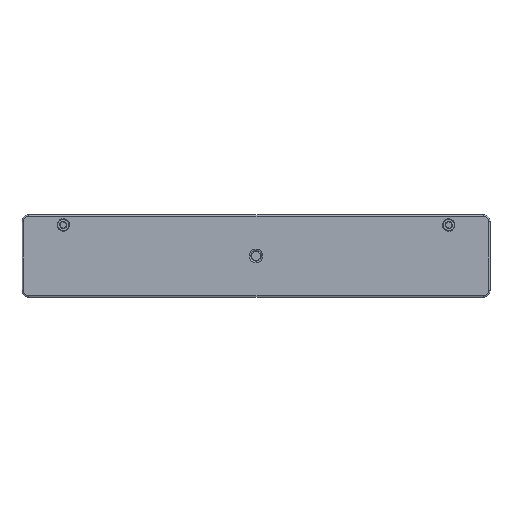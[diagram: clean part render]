
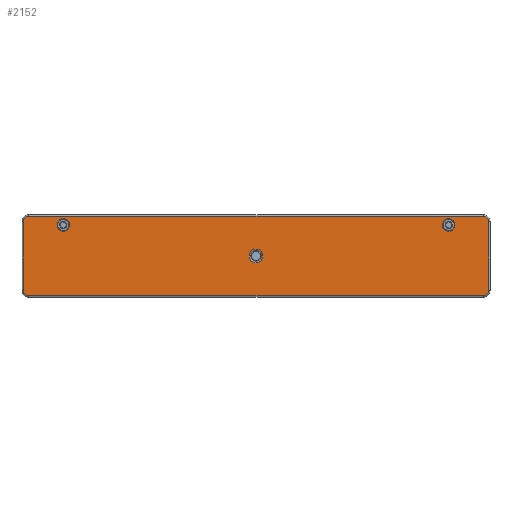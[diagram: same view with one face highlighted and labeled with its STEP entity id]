
A CAD part, top view. The second image highlights one B-rep face of the part: STEP entity #2152.
In plain terms, the highlighted planar face has unit normal (0, 0, 1).
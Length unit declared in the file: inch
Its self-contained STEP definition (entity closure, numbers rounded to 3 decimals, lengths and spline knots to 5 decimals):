
#167 = AXIS2_PLACEMENT_3D ( 'NONE', #5409, #5413, #5414 ) ;
#169 = AXIS2_PLACEMENT_3D ( 'NONE', #5385, #5392, #5393 ) ;
#172 = AXIS2_PLACEMENT_3D ( 'NONE', #5403, #5407, #5408 ) ;
#174 = AXIS2_PLACEMENT_3D ( 'NONE', #5394, #5401, #5402 ) ;
#175 = VECTOR ( 'NONE', #5397, 39.37008 ) ;
#176 = AXIS2_PLACEMENT_3D ( 'NONE', #5415, #5416, #5417 ) ;
#177 = VECTOR ( 'NONE', #5400, 39.37008 ) ;
#179 = VECTOR ( 'NONE', #5406, 39.37008 ) ;
#181 = VECTOR ( 'NONE', #5412, 39.37008 ) ;
#182 = AXIS2_PLACEMENT_3D ( 'NONE', #5418, #5419, #5420 ) ;
#183 = AXIS2_PLACEMENT_3D ( 'NONE', #5421, #5422, #5423 ) ;
#373 = AXIS2_PLACEMENT_3D ( 'NONE', #6392, #6393, #6394 ) ;
#377 = AXIS2_PLACEMENT_3D ( 'NONE', #6404, #6405, #6406 ) ;
#381 = AXIS2_PLACEMENT_3D ( 'NONE', #6416, #6417, #6418 ) ;
#425 = FACE_OUTER_BOUND ( 'NONE', #12539, .T. ) ;
#427 = AXIS2_PLACEMENT_3D ( 'NONE', #6858, #6859, #6860 ) ;
#428 = FACE_BOUND ( 'NONE', #12541, .T. ) ;
#431 = FACE_BOUND ( 'NONE', #12538, .T. ) ;
#433 = FACE_BOUND ( 'NONE', #12537, .T. ) ;
#757 = EDGE_CURVE ( 'NONE', #1020, #1021, #4228, .T. ) ;
#758 = EDGE_CURVE ( 'NONE', #1019, #1020, #5395, .T. ) ;
#759 = EDGE_CURVE ( 'NONE', #1021, #1022, #5398, .T. ) ;
#760 = EDGE_CURVE ( 'NONE', #1022, #1023, #4227, .T. ) ;
#761 = EDGE_CURVE ( 'NONE', #1023, #1024, #5404, .T. ) ;
#762 = EDGE_CURVE ( 'NONE', #1024, #1025, #4229, .T. ) ;
#763 = EDGE_CURVE ( 'NONE', #1025, #1026, #5410, .T. ) ;
#764 = EDGE_CURVE ( 'NONE', #1026, #1019, #4230, .T. ) ;
#765 = EDGE_CURVE ( 'NONE', #984, #994, #4231, .T. ) ;
#766 = EDGE_CURVE ( 'NONE', #996, #916, #4232, .T. ) ;
#767 = EDGE_CURVE ( 'NONE', #991, #981, #4233, .T. ) ;
#916 = VERTEX_POINT ( 'NONE', #5801 ) ;
#981 = VERTEX_POINT ( 'NONE', #5866 ) ;
#984 = VERTEX_POINT ( 'NONE', #5869 ) ;
#991 = VERTEX_POINT ( 'NONE', #5876 ) ;
#994 = VERTEX_POINT ( 'NONE', #5879 ) ;
#996 = VERTEX_POINT ( 'NONE', #5881 ) ;
#1019 = VERTEX_POINT ( 'NONE', #5904 ) ;
#1020 = VERTEX_POINT ( 'NONE', #5905 ) ;
#1021 = VERTEX_POINT ( 'NONE', #5906 ) ;
#1022 = VERTEX_POINT ( 'NONE', #5907 ) ;
#1023 = VERTEX_POINT ( 'NONE', #5908 ) ;
#1024 = VERTEX_POINT ( 'NONE', #5909 ) ;
#1025 = VERTEX_POINT ( 'NONE', #5910 ) ;
#1026 = VERTEX_POINT ( 'NONE', #5911 ) ;
#1403 = ORIENTED_EDGE ( 'NONE', *, *, #758, .T. ) ;
#1404 = ORIENTED_EDGE ( 'NONE', *, *, #759, .T. ) ;
#1405 = ORIENTED_EDGE ( 'NONE', *, *, #757, .T. ) ;
#1406 = ORIENTED_EDGE ( 'NONE', *, *, #760, .T. ) ;
#1407 = ORIENTED_EDGE ( 'NONE', *, *, #761, .T. ) ;
#1408 = ORIENTED_EDGE ( 'NONE', *, *, #762, .T. ) ;
#1409 = ORIENTED_EDGE ( 'NONE', *, *, #763, .T. ) ;
#1410 = ORIENTED_EDGE ( 'NONE', *, *, #764, .T. ) ;
#1412 = ORIENTED_EDGE ( 'NONE', *, *, #765, .T. ) ;
#1413 = ORIENTED_EDGE ( 'NONE', *, *, #2072, .T. ) ;
#1414 = ORIENTED_EDGE ( 'NONE', *, *, #766, .T. ) ;
#1415 = ORIENTED_EDGE ( 'NONE', *, *, #2068, .T. ) ;
#1416 = ORIENTED_EDGE ( 'NONE', *, *, #767, .T. ) ;
#1417 = ORIENTED_EDGE ( 'NONE', *, *, #2064, .T. ) ;
#2064 = EDGE_CURVE ( 'NONE', #981, #991, #4291, .T. ) ;
#2068 = EDGE_CURVE ( 'NONE', #916, #996, #4295, .T. ) ;
#2072 = EDGE_CURVE ( 'NONE', #994, #984, #4299, .T. ) ;
#2152 = ADVANCED_FACE ( 'NONE', ( #425, #428, #431, #433 ), #6857, .F. ) ;
#4227 = CIRCLE ( 'NONE', #174, 0.1 ) ;
#4228 = CIRCLE ( 'NONE', #169, 0.1 ) ;
#4229 = CIRCLE ( 'NONE', #172, 0.1 ) ;
#4230 = CIRCLE ( 'NONE', #167, 0.1 ) ;
#4231 = CIRCLE ( 'NONE', #176, 0.1255 ) ;
#4232 = CIRCLE ( 'NONE', #182, 0.07825 ) ;
#4233 = CIRCLE ( 'NONE', #183, 0.07825 ) ;
#4291 = CIRCLE ( 'NONE', #373, 0.07825 ) ;
#4295 = CIRCLE ( 'NONE', #377, 0.07825 ) ;
#4299 = CIRCLE ( 'NONE', #381, 0.1255 ) ;
#5385 = CARTESIAN_POINT ( 'NONE',  ( 8.375, 0.125, 0.375 ) ) ;
#5392 = DIRECTION ( 'NONE',  ( 0., 0., 1. ) ) ;
#5393 = DIRECTION ( 'NONE',  ( -1., 0., 0. ) ) ;
#5394 = CARTESIAN_POINT ( 'NONE',  ( 8.375, 1.375, 0.375 ) ) ;
#5395 = LINE ( 'NONE', #5396, #175 ) ;
#5396 = CARTESIAN_POINT ( 'NONE',  ( 0., 0.025, 0.375 ) ) ;
#5397 = DIRECTION ( 'NONE',  ( 1., 0., 0. ) ) ;
#5398 = LINE ( 'NONE', #5399, #177 ) ;
#5399 = CARTESIAN_POINT ( 'NONE',  ( 8.475, 1.5, 0.375 ) ) ;
#5400 = DIRECTION ( 'NONE',  ( 0., 1., 0. ) ) ;
#5401 = DIRECTION ( 'NONE',  ( 0., 0., 1. ) ) ;
#5402 = DIRECTION ( 'NONE',  ( -1., 0., 0. ) ) ;
#5403 = CARTESIAN_POINT ( 'NONE',  ( 0.125, 1.375, 0.375 ) ) ;
#5404 = LINE ( 'NONE', #5405, #179 ) ;
#5405 = CARTESIAN_POINT ( 'NONE',  ( 0., 1.475, 0.375 ) ) ;
#5406 = DIRECTION ( 'NONE',  ( -1., 0., 0. ) ) ;
#5407 = DIRECTION ( 'NONE',  ( 0., 0., 1. ) ) ;
#5408 = DIRECTION ( 'NONE',  ( -1., 0., 0. ) ) ;
#5409 = CARTESIAN_POINT ( 'NONE',  ( 0.125, 0.125, 0.375 ) ) ;
#5410 = LINE ( 'NONE', #5411, #181 ) ;
#5411 = CARTESIAN_POINT ( 'NONE',  ( 0.025, 1.5, 0.375 ) ) ;
#5412 = DIRECTION ( 'NONE',  ( 0., -1., 0. ) ) ;
#5413 = DIRECTION ( 'NONE',  ( 0., 0., 1. ) ) ;
#5414 = DIRECTION ( 'NONE',  ( -1., 0., 0. ) ) ;
#5415 = CARTESIAN_POINT ( 'NONE',  ( 4.25, 0.75, 0.375 ) ) ;
#5416 = DIRECTION ( 'NONE',  ( 0., 0., -1. ) ) ;
#5417 = DIRECTION ( 'NONE',  ( -1., 0., 0. ) ) ;
#5418 = CARTESIAN_POINT ( 'NONE',  ( 7.75, 1.3125, 0.375 ) ) ;
#5419 = DIRECTION ( 'NONE',  ( 0., 0., -1. ) ) ;
#5420 = DIRECTION ( 'NONE',  ( -1., 0., 0. ) ) ;
#5421 = CARTESIAN_POINT ( 'NONE',  ( 0.75, 1.3125, 0.375 ) ) ;
#5422 = DIRECTION ( 'NONE',  ( 0., 0., -1. ) ) ;
#5423 = DIRECTION ( 'NONE',  ( -1., 0., 0. ) ) ;
#5801 = CARTESIAN_POINT ( 'NONE',  ( 7.67175, 1.3125, 0.375 ) ) ;
#5866 = CARTESIAN_POINT ( 'NONE',  ( 0.67175, 1.3125, 0.375 ) ) ;
#5869 = CARTESIAN_POINT ( 'NONE',  ( 4.3755, 0.75, 0.375 ) ) ;
#5876 = CARTESIAN_POINT ( 'NONE',  ( 0.82825, 1.3125, 0.375 ) ) ;
#5879 = CARTESIAN_POINT ( 'NONE',  ( 4.1245, 0.75, 0.375 ) ) ;
#5881 = CARTESIAN_POINT ( 'NONE',  ( 7.82825, 1.3125, 0.375 ) ) ;
#5904 = CARTESIAN_POINT ( 'NONE',  ( 0.125, 0.025, 0.375 ) ) ;
#5905 = CARTESIAN_POINT ( 'NONE',  ( 8.375, 0.025, 0.375 ) ) ;
#5906 = CARTESIAN_POINT ( 'NONE',  ( 8.475, 0.125, 0.375 ) ) ;
#5907 = CARTESIAN_POINT ( 'NONE',  ( 8.475, 1.375, 0.375 ) ) ;
#5908 = CARTESIAN_POINT ( 'NONE',  ( 8.375, 1.475, 0.375 ) ) ;
#5909 = CARTESIAN_POINT ( 'NONE',  ( 0.125, 1.475, 0.375 ) ) ;
#5910 = CARTESIAN_POINT ( 'NONE',  ( 0.025, 1.375, 0.375 ) ) ;
#5911 = CARTESIAN_POINT ( 'NONE',  ( 0.025, 0.125, 0.375 ) ) ;
#6392 = CARTESIAN_POINT ( 'NONE',  ( 0.75, 1.3125, 0.375 ) ) ;
#6393 = DIRECTION ( 'NONE',  ( 0., 0., -1. ) ) ;
#6394 = DIRECTION ( 'NONE',  ( -1., 0., 0. ) ) ;
#6404 = CARTESIAN_POINT ( 'NONE',  ( 7.75, 1.3125, 0.375 ) ) ;
#6405 = DIRECTION ( 'NONE',  ( 0., 0., -1. ) ) ;
#6406 = DIRECTION ( 'NONE',  ( -1., 0., 0. ) ) ;
#6416 = CARTESIAN_POINT ( 'NONE',  ( 4.25, 0.75, 0.375 ) ) ;
#6417 = DIRECTION ( 'NONE',  ( 0., 0., -1. ) ) ;
#6418 = DIRECTION ( 'NONE',  ( -1., 0., 0. ) ) ;
#6857 = PLANE ( 'NONE',  #427 ) ;
#6858 = CARTESIAN_POINT ( 'NONE',  ( 0., 1.5, 0.375 ) ) ;
#6859 = DIRECTION ( 'NONE',  ( 0., 0., -1. ) ) ;
#6860 = DIRECTION ( 'NONE',  ( -1., 0., 0. ) ) ;
#12537 = EDGE_LOOP ( 'NONE', ( #1417, #1416 ) ) ;
#12538 = EDGE_LOOP ( 'NONE', ( #1415, #1414 ) ) ;
#12539 = EDGE_LOOP ( 'NONE', ( #1403, #1405, #1404, #1406, #1407, #1408, #1409, #1410 ) ) ;
#12541 = EDGE_LOOP ( 'NONE', ( #1413, #1412 ) ) ;
